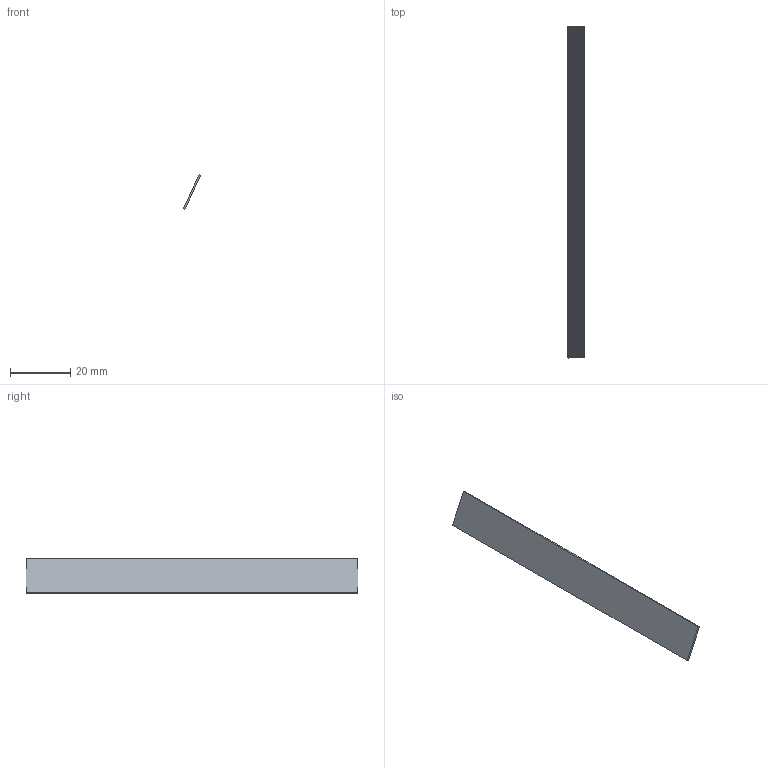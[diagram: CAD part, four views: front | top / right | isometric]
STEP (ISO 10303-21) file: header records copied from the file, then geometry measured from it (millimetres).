
FILE_DESCRIPTION(('Open CASCADE Model'),'2;1');
FILE_NAME('SOLID','2026-10-21T18:57:51',('Author'),('Open CASCADE'), 'Open CASCADE STEP processor 8.0','build123d','Unknown');
FILE_SCHEMA(('AUTOMOTIVE_DESIGN { 1 0 10303 214 1 1 1 1 }'));
Length unit declared in the file: millimetre
Products named in the file (2): SOLID
Assembly tree (1 placements, depth 2):
  SOLID
    SOLID
Bounding box: 5.74 x 109.85 x 11.4 mm (x, y, z)
Volume: 810.7 mm3; surface area: 2848.9 mm2
Topology: 1 solids, 1 shells, 6 faces, 12 edges, 8 vertices
Faces by surface type: plane 6
Entity records: 328 total; most frequent: CARTESIAN_POINT 64, DIRECTION 40, ORIENTED_EDGE 24, LINE 24, VECTOR 24, PCURVE 24, DEFINITIONAL_REPRESENTATION 24, EDGE_CURVE 12
